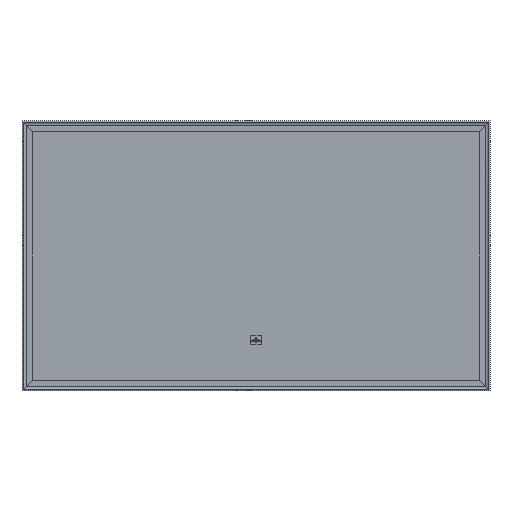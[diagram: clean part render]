
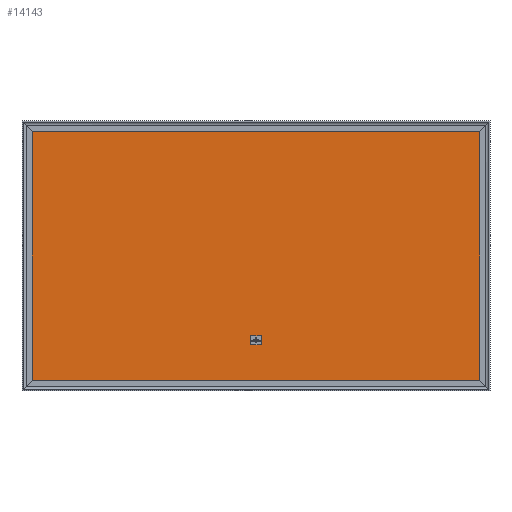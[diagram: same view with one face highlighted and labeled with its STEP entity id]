
A CAD part, front view. The second image highlights one B-rep face of the part: STEP entity #14143.
In plain terms, the highlighted planar face has unit normal (0, -1, 0).
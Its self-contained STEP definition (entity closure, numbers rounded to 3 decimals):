
#316=LINE('',#20332,#1891);
#324=LINE('',#20347,#1899);
#343=LINE('',#20427,#1918);
#583=LINE('',#21114,#2158);
#703=LINE('',#21418,#2278);
#929=LINE('',#21973,#2504);
#930=LINE('',#21975,#2505);
#931=LINE('',#21976,#2506);
#1891=VECTOR('',#16311,691.);
#1899=VECTOR('',#16323,691.);
#1918=VECTOR('',#16398,15.086);
#2158=VECTOR('',#17030,1242.);
#2278=VECTOR('',#17242,15.086);
#2504=VECTOR('',#17802,23.571);
#2505=VECTOR('',#17805,1242.);
#2506=VECTOR('',#17806,23.571);
#3572=PLANE('',#15187);
#3960=FACE_BOUND('',#5315,.T.);
#4427=FACE_OUTER_BOUND('',#5314,.T.);
#5314=EDGE_LOOP('',(#11544,#11545,#11546,#11547));
#5315=EDGE_LOOP('',(#11548,#11549,#11550,#11551,#11552,#11553,#11554,#11555));
#5858=CIRCLE('',#14775,4.714);
#5860=CIRCLE('',#14779,4.714);
#5963=CIRCLE('',#15017,4.714);
#5965=CIRCLE('',#15021,4.714);
#6357=VERTEX_POINT('',#20328);
#6359=VERTEX_POINT('',#20331);
#6362=VERTEX_POINT('',#20341);
#6364=VERTEX_POINT('',#20345);
#6393=VERTEX_POINT('',#20417);
#6394=VERTEX_POINT('',#20418);
#6397=VERTEX_POINT('',#20426);
#6399=VERTEX_POINT('',#20432);
#6742=VERTEX_POINT('',#21408);
#6743=VERTEX_POINT('',#21409);
#6746=VERTEX_POINT('',#21417);
#6748=VERTEX_POINT('',#21423);
#7784=EDGE_CURVE('',#6357,#6359,#316,.T.);
#7792=EDGE_CURVE('',#6364,#6362,#324,.T.);
#7823=EDGE_CURVE('',#6393,#6394,#5858,.T.);
#7827=EDGE_CURVE('',#6394,#6397,#343,.T.);
#7830=EDGE_CURVE('',#6397,#6399,#5860,.T.);
#8147=EDGE_CURVE('',#6362,#6357,#583,.T.);
#8295=EDGE_CURVE('',#6742,#6743,#5963,.T.);
#8299=EDGE_CURVE('',#6743,#6746,#703,.T.);
#8302=EDGE_CURVE('',#6746,#6748,#5965,.T.);
#8551=EDGE_CURVE('',#6399,#6742,#929,.T.);
#8552=EDGE_CURVE('',#6359,#6364,#930,.T.);
#8553=EDGE_CURVE('',#6748,#6393,#931,.T.);
#11544=ORIENTED_EDGE('',*,*,#8552,.F.);
#11545=ORIENTED_EDGE('',*,*,#7784,.F.);
#11546=ORIENTED_EDGE('',*,*,#8147,.F.);
#11547=ORIENTED_EDGE('',*,*,#7792,.F.);
#11548=ORIENTED_EDGE('',*,*,#8551,.T.);
#11549=ORIENTED_EDGE('',*,*,#8295,.T.);
#11550=ORIENTED_EDGE('',*,*,#8299,.T.);
#11551=ORIENTED_EDGE('',*,*,#8302,.T.);
#11552=ORIENTED_EDGE('',*,*,#8553,.T.);
#11553=ORIENTED_EDGE('',*,*,#7823,.T.);
#11554=ORIENTED_EDGE('',*,*,#7827,.T.);
#11555=ORIENTED_EDGE('',*,*,#7830,.T.);
#14143=ADVANCED_FACE('',(#4427,#3960),#3572,.F.);
#14775=AXIS2_PLACEMENT_3D('',#20419,#16390,#16391);
#14779=AXIS2_PLACEMENT_3D('',#20433,#16403,#16404);
#15017=AXIS2_PLACEMENT_3D('',#21410,#17234,#17235);
#15021=AXIS2_PLACEMENT_3D('',#21424,#17247,#17248);
#15187=AXIS2_PLACEMENT_3D('',#21974,#17803,#17804);
#16311=DIRECTION('',(0.,0.,-1.));
#16323=DIRECTION('',(0.,0.,1.));
#16390=DIRECTION('center_axis',(0.,1.,0.));
#16391=DIRECTION('ref_axis',(1.,0.,0.));
#16398=DIRECTION('',(0.,0.,-1.));
#16403=DIRECTION('center_axis',(0.,1.,0.));
#16404=DIRECTION('ref_axis',(0.,0.,-1.));
#17030=DIRECTION('',(1.,0.,0.));
#17234=DIRECTION('center_axis',(0.,1.,0.));
#17235=DIRECTION('ref_axis',(-1.,0.,0.));
#17242=DIRECTION('',(0.,0.,1.));
#17247=DIRECTION('center_axis',(0.,1.,0.));
#17248=DIRECTION('ref_axis',(0.,0.,1.));
#17802=DIRECTION('',(-1.,0.,0.));
#17803=DIRECTION('center_axis',(0.,1.,0.));
#17804=DIRECTION('ref_axis',(-1.,0.,0.));
#17805=DIRECTION('',(-1.,0.,0.));
#17806=DIRECTION('',(1.,0.,0.));
#20328=CARTESIAN_POINT('',(621.,5.75,720.5));
#20331=CARTESIAN_POINT('',(621.,5.75,29.5));
#20332=CARTESIAN_POINT('',(621.,5.75,548.));
#20341=CARTESIAN_POINT('',(-621.,5.75,720.5));
#20345=CARTESIAN_POINT('',(-621.,5.75,29.5));
#20347=CARTESIAN_POINT('',(-621.,5.75,202.));
#20417=CARTESIAN_POINT('',(11.786,5.75,153.514));
#20418=CARTESIAN_POINT('',(16.5,5.75,148.8));
#20419=CARTESIAN_POINT('Origin',(11.786,5.75,148.8));
#20426=CARTESIAN_POINT('',(16.5,5.75,133.714));
#20427=CARTESIAN_POINT('',(16.5,5.75,261.9));
#20432=CARTESIAN_POINT('',(11.786,5.75,129.));
#20433=CARTESIAN_POINT('Origin',(11.786,5.75,133.714));
#21114=CARTESIAN_POINT('',(64.25,5.75,720.5));
#21408=CARTESIAN_POINT('',(-11.786,5.75,129.));
#21409=CARTESIAN_POINT('',(-16.5,5.75,133.714));
#21410=CARTESIAN_POINT('Origin',(-11.786,5.75,133.714));
#21417=CARTESIAN_POINT('',(-16.5,5.75,148.8));
#21418=CARTESIAN_POINT('',(-16.5,5.75,254.357));
#21423=CARTESIAN_POINT('',(-11.786,5.75,153.514));
#21424=CARTESIAN_POINT('Origin',(-11.786,5.75,148.8));
#21973=CARTESIAN_POINT('',(5.893,5.75,129.));
#21974=CARTESIAN_POINT('Origin',(0.,5.75,
375.));
#21975=CARTESIAN_POINT('',(435.75,5.75,29.5));
#21976=CARTESIAN_POINT('',(-5.893,5.75,153.514));
